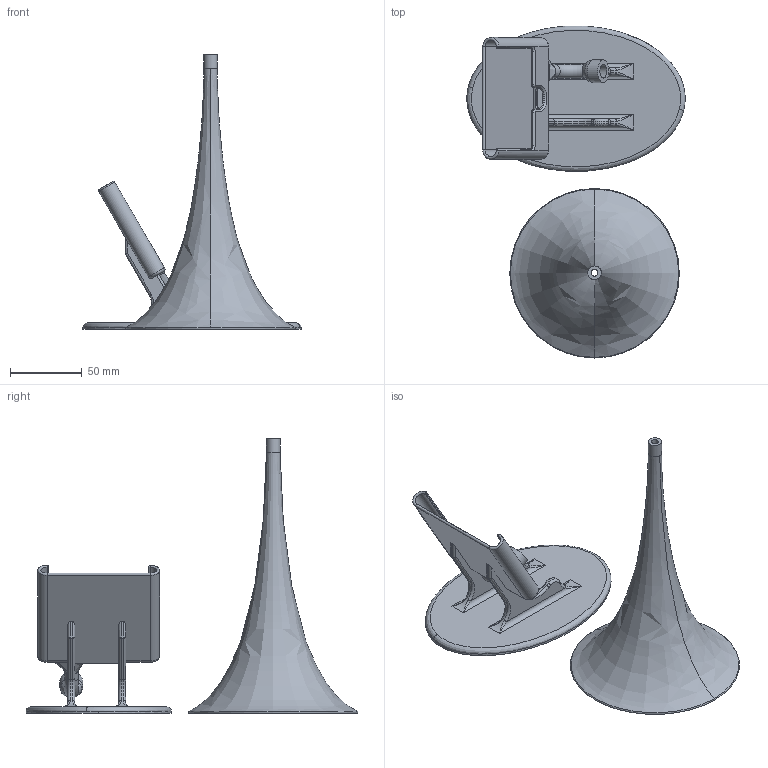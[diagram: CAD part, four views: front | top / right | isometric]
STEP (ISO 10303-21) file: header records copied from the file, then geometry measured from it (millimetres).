
FILE_DESCRIPTION(/* description */ (''),/* implementation_level */ '2;1');
FILE_NAME(/* name */ 'C:/Users/Morgan/CloudStation/3D Printing/Things/iPhone 6 Gramophone Horn/Remix/1.stp',/* time_stamp */ '2016-08-18T22:18:34+08:00',/* author */ (''),/* organization */ (''),/* preprocessor_version */ 'ST-DEVELOPER v15.2',/* originating_system */ 'Autodesk Translator Framework v2.0.0.5431',/* authorisation */ '');
FILE_SCHEMA (('AUTOMOTIVE_DESIGN { 1 0 10303 214 3 1 1 }'));
Length unit declared in the file: centimetre
Products named in the file (1): (Unsaved)
Bounding box: 152.4 x 231.67 x 191.66 mm (x, y, z)
Volume: 143557.3 mm3; surface area: 97896.9 mm2
Topology: 2 solids, 2 shells, 177 faces, 451 edges, 261 vertices
Faces by surface type: cylinder 52, plane 50, bspline 38, torus 22, cone 15
Full cylindrical faces by diameter (mm): 4.763 x2, 9.525 x2
Entity records: 9701 total; most frequent: CARTESIAN_POINT 5751, ORIENTED_EDGE 856, DIRECTION 764, EDGE_CURVE 428, AXIS2_PLACEMENT_3D 291, VERTEX_POINT 260, EDGE_LOOP 190, LINE 182
